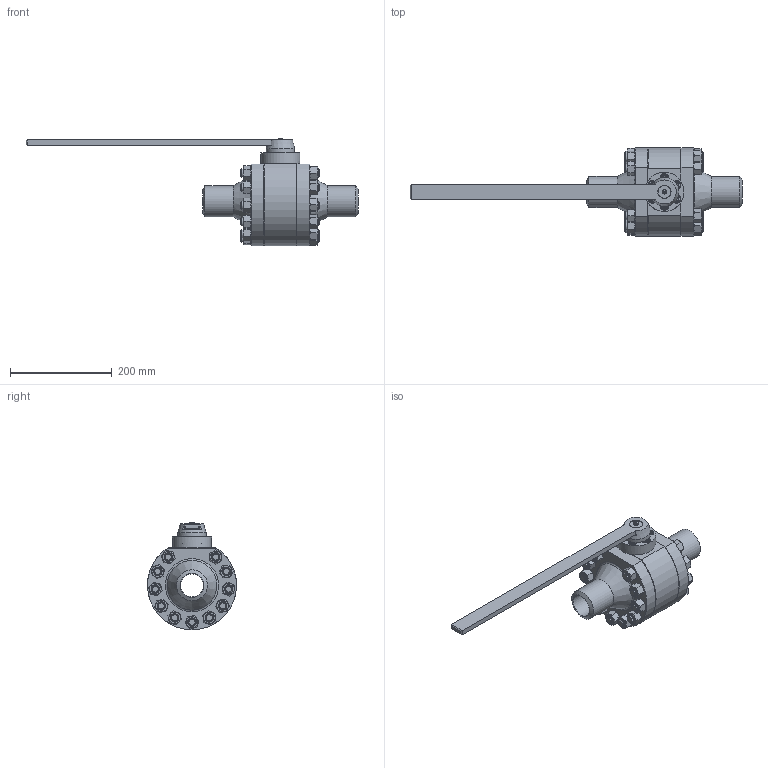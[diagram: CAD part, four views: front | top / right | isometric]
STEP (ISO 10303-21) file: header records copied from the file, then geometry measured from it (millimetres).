
FILE_DESCRIPTION(('STEP AP203'), '1');
FILE_NAME('ZARD 050.250.40.P.stp', '2013-12-06T08:05:27', ($), ($), 'ASCON STEP Converter 1.3', 'Kompas 3D', '');
FILE_SCHEMA(('CONFIG_CONTROL_DESIGN','SUPPORT_RESOURCE_SCHEMA'));
Length unit declared in the file: millimetre
Products named in the file (1): 200
Bounding box: 652.5 x 174.95 x 211.5 mm (x, y, z)
Volume: 2759801.5 mm3; surface area: 421724.3 mm2
Topology: 1 solids, 22 shells, 721 faces, 1576 edges, 989 vertices
Faces by surface type: plane 408, cone 173, cylinder 138, torus 2
Full cylindrical faces by diameter (mm): 4.134 x1, 5 x1, 5.3 x1, 8 x8, 8.376 x6, 8.5 x1, 10 x6, 11 x6, 16 x50, 17 x6, 18 x11, 23.5 x1, 25 x3, 26 x1, 34.5 x1, 35 x1, 40 x1, 45 x2, 56 x1, 61 x2, 77 x1, 95 x3, 109 x2
Entity records: 32167 total; most frequent: CARTESIAN_POINT 16472, DIRECTION 3243, ORIENTED_EDGE 3138, EDGE_CURVE 1569, AXIS2_PLACEMENT_3D 1295, VERTEX_POINT 989, EDGE_LOOP 848, ADVANCED_FACE 721
